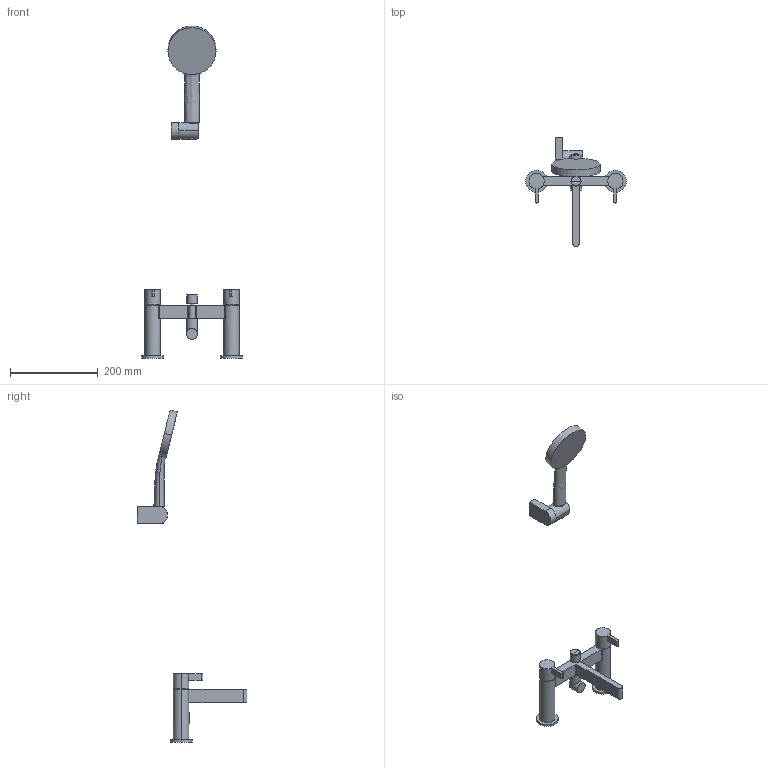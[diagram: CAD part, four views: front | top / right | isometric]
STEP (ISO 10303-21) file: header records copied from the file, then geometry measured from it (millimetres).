
FILE_DESCRIPTION(('FreeCAD Model'),'2;1');
FILE_NAME('Open CASCADE Shape Model','2024-07-23T19:18:28',('Author'),( ''),'Open CASCADE STEP processor 7.6','FreeCAD','Unknown');
FILE_SCHEMA(('AUTOMOTIVE_DESIGN { 1 0 10303 214 1 1 1 1 }'));
Length unit declared in the file: millimetre
Products named in the file (17): TopLevelAssembly; Wyciąganie003; Wyciąganie001; Wyciąganie002; Połączona geometria bryłowa003; Połączona geometria bryłowa; Połączona geometria bryłowa001; Połączona geometria bryłowa002; Wyciąganie010; Wyciąganie008; Wyciąganie009; Obrót profilu; Wyciągnięcie po ścieżce; NBS_VADO_ShwrMxrs_EditIndividualBathShowerMixer_Headset003; NBS_VADO_ShwrMxrs_EditIndividualBathShowerMixer_Headset; NBS_VADO_ShwrMxrs_EditIndividualBathShowerMixer_Headset001; NBS_VADO_ShwrMxrs_EditIndividualBathShowerMixer_Headset002
Assembly tree (16 placements, depth 3):
  TopLevelAssembly
    Wyciąganie003
      Wyciąganie001
      Wyciąganie002
    Połączona geometria bryłowa003
      Połączona geometria bryłowa
      Połączona geometria bryłowa001
      Połączona geometria bryłowa002
    Wyciąganie010
      Wyciąganie008
      Wyciąganie009
    Obrót profilu
    Wyciągnięcie po ścieżce
    NBS_VADO_ShwrMxrs_EditIndividualBathShowerMixer_Headset003
      NBS_VADO_ShwrMxrs_EditIndividualBathShowerMixer_Headset
      NBS_VADO_ShwrMxrs_EditIndividualBathShowerMixer_Headset001
      NBS_VADO_ShwrMxrs_EditIndividualBathShowerMixer_Headset002
Bounding box: 230 x 250 x 758.59 mm (x, y, z)
Volume: 812404.6 mm3; surface area: 141943.9 mm2
Topology: 12 solids, 12 shells, 96 faces, 202 edges, 130 vertices
Faces by surface type: plane 49, cylinder 43, bspline 4
Entity records: 3296 total; most frequent: CARTESIAN_POINT 785, DIRECTION 508, ORIENTED_EDGE 404, AXIS2_PLACEMENT_3D 207, EDGE_CURVE 202, VERTEX_POINT 130, ADVANCED_FACE 96, FACE_BOUND 96
